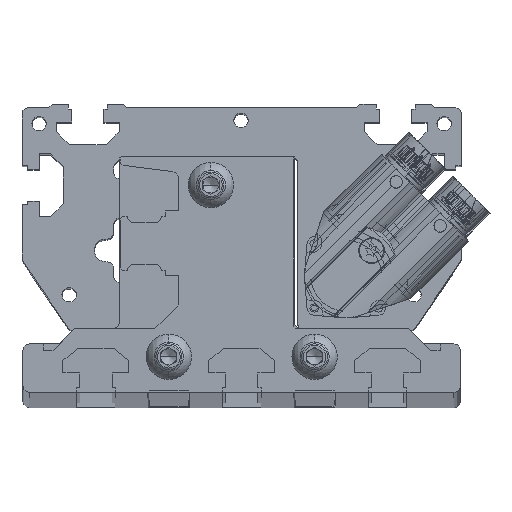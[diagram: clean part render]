
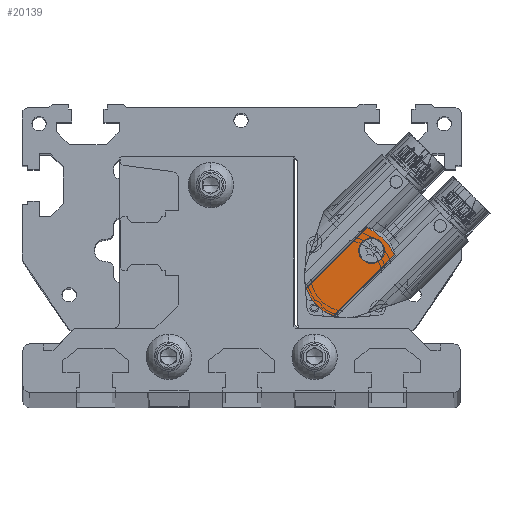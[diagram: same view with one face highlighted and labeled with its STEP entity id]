
A CAD part, top view. The second image highlights one B-rep face of the part: STEP entity #20139.
In plain terms, the highlighted planar face has unit normal (0, 0, 1).
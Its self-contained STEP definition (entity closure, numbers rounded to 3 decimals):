
#378 = EDGE_CURVE ( 'NONE', #11138, #11118, #7701, .T. ) ;
#380 = EDGE_CURVE ( 'NONE', #11118, #20918, #3864, .T. ) ;
#508 = EDGE_CURVE ( 'NONE', #11138, #20917, #15943, .T. ) ;
#509 = EDGE_CURVE ( 'NONE', #11338, #11177, #15944, .T. ) ;
#3864 = B_SPLINE_CURVE_WITH_KNOTS ( 'NONE', 3,
 ( #30468, #30469, #30470, #30471, #30472, #30473, #30474, #30475, #30476, #30477, #30478, #30479 ),
 .UNSPECIFIED., .F., .F.,
 ( 4, 2, 2, 2, 2, 4 ),
 ( 0., 0.003, 0.006, 0.007, 0.009, 0.012 ),
 .UNSPECIFIED. ) ;
#4648 = AXIS2_PLACEMENT_3D ( 'NONE', #5228, #5229, #5230 ) ;
#5227 = PLANE ( 'NONE',  #4648 ) ;
#5228 = CARTESIAN_POINT ( 'NONE',  ( 9.581, 9.581, 18.8 ) ) ;
#5229 = DIRECTION ( 'NONE',  ( 0., 0., 1. ) ) ;
#5230 = DIRECTION ( 'NONE',  ( 0.707, -0.707, 0. ) ) ;
#7701 = LINE ( 'NONE', #30462, #7702 ) ;
#7702 = VECTOR ( 'NONE', #30463, 1000. ) ;
#8438 = CARTESIAN_POINT ( 'NONE',  ( 14.874, 6.567, 18.8 ) ) ;
#8458 = CARTESIAN_POINT ( 'NONE',  ( -3.968, -12.275, 18.8 ) ) ;
#8497 = CARTESIAN_POINT ( 'NONE',  ( 4.95, 4.95, 18.8 ) ) ;
#8658 = CARTESIAN_POINT ( 'NONE',  ( 10.607, 10.607, 18.8 ) ) ;
#10066 = AXIS2_PLACEMENT_3D ( 'NONE', #31046, #31047, #31048 ) ;
#10067 = AXIS2_PLACEMENT_3D ( 'NONE', #31049, #31050, #31051 ) ;
#11118 = VERTEX_POINT ( 'NONE', #8438 ) ;
#11138 = VERTEX_POINT ( 'NONE', #8458 ) ;
#11177 = VERTEX_POINT ( 'NONE', #8497 ) ;
#11338 = VERTEX_POINT ( 'NONE', #8658 ) ;
#12762 = CARTESIAN_POINT ( 'NONE',  ( -12.275, -3.968, 18.8 ) ) ;
#12763 = CARTESIAN_POINT ( 'NONE',  ( 6.567, 14.874, 18.8 ) ) ;
#14342 = CIRCLE ( 'NONE', #43459, 4. ) ;
#14461 = LINE ( 'NONE', #15164, #14462 ) ;
#14462 = VECTOR ( 'NONE', #15165, 1000. ) ;
#14796 = CARTESIAN_POINT ( 'NONE',  ( 7.778, 7.778, 18.8 ) ) ;
#14797 = DIRECTION ( 'NONE',  ( 0., 0., -1. ) ) ;
#14798 = DIRECTION ( 'NONE',  ( -0.707, -0.707, 0. ) ) ;
#15164 = CARTESIAN_POINT ( 'NONE',  ( 5.428, 13.735, 18.8 ) ) ;
#15165 = DIRECTION ( 'NONE',  ( -0.707, -0.707, 0. ) ) ;
#15943 = CIRCLE ( 'NONE', #10066, 12.9 ) ;
#15944 = CIRCLE ( 'NONE', #10067, 4. ) ;
#20139 = ADVANCED_FACE ( 'NONE', ( #29261, #29263 ), #5227, .T. ) ;
#20917 = VERTEX_POINT ( 'NONE', #12762 ) ;
#20918 = VERTEX_POINT ( 'NONE', #12763 ) ;
#27043 = EDGE_LOOP ( 'NONE', ( #27087, #27086 ) ) ;
#27044 = EDGE_LOOP ( 'NONE', ( #27085, #27084, #27083, #27082 ) ) ;
#27082 = ORIENTED_EDGE ( 'NONE', *, *, #36943, .T. ) ;
#27083 = ORIENTED_EDGE ( 'NONE', *, *, #380, .T. ) ;
#27084 = ORIENTED_EDGE ( 'NONE', *, *, #378, .T. ) ;
#27085 = ORIENTED_EDGE ( 'NONE', *, *, #508, .F. ) ;
#27086 = ORIENTED_EDGE ( 'NONE', *, *, #509, .T. ) ;
#27087 = ORIENTED_EDGE ( 'NONE', *, *, #36843, .T. ) ;
#29261 = FACE_BOUND ( 'NONE', #27043, .T. ) ;
#29263 = FACE_OUTER_BOUND ( 'NONE', #27044, .T. ) ;
#30462 = CARTESIAN_POINT ( 'NONE',  ( 13.735, 5.428, 18.8 ) ) ;
#30463 = DIRECTION ( 'NONE',  ( 0.707, 0.707, 0. ) ) ;
#30468 = CARTESIAN_POINT ( 'NONE',  ( 14.874, 6.567, 18.8 ) ) ;
#30469 = CARTESIAN_POINT ( 'NONE',  ( 14.421, 7.463, 18.8 ) ) ;
#30470 = CARTESIAN_POINT ( 'NONE',  ( 13.902, 8.311, 18.8 ) ) ;
#30471 = CARTESIAN_POINT ( 'NONE',  ( 12.741, 9.914, 18.8 ) ) ;
#30472 = CARTESIAN_POINT ( 'NONE',  ( 12.098, 10.67, 18.8 ) ) ;
#30473 = CARTESIAN_POINT ( 'NONE',  ( 11.037, 11.732, 18.8 ) ) ;
#30474 = CARTESIAN_POINT ( 'NONE',  ( 10.668, 12.073, 18.8 ) ) ;
#30475 = CARTESIAN_POINT ( 'NONE',  ( 9.909, 12.72, 18.8 ) ) ;
#30476 = CARTESIAN_POINT ( 'NONE',  ( 9.519, 13.027, 18.8 ) ) ;
#30477 = CARTESIAN_POINT ( 'NONE',  ( 8.312, 13.902, 18.8 ) ) ;
#30478 = CARTESIAN_POINT ( 'NONE',  ( 7.463, 14.421, 18.8 ) ) ;
#30479 = CARTESIAN_POINT ( 'NONE',  ( 6.567, 14.874, 18.8 ) ) ;
#31046 = CARTESIAN_POINT ( 'NONE',  ( 0., 0., 18.8 ) ) ;
#31047 = DIRECTION ( 'NONE',  ( 0., 0., -1. ) ) ;
#31048 = DIRECTION ( 'NONE',  ( 0.707, -0.707, 0. ) ) ;
#31049 = CARTESIAN_POINT ( 'NONE',  ( 7.778, 7.778, 18.8 ) ) ;
#31050 = DIRECTION ( 'NONE',  ( 0., 0., -1. ) ) ;
#31051 = DIRECTION ( 'NONE',  ( -0.707, -0.707, 0. ) ) ;
#36843 = EDGE_CURVE ( 'NONE', #11177, #11338, #14342, .T. ) ;
#36943 = EDGE_CURVE ( 'NONE', #20918, #20917, #14461, .T. ) ;
#43459 = AXIS2_PLACEMENT_3D ( 'NONE', #14796, #14797, #14798 ) ;
